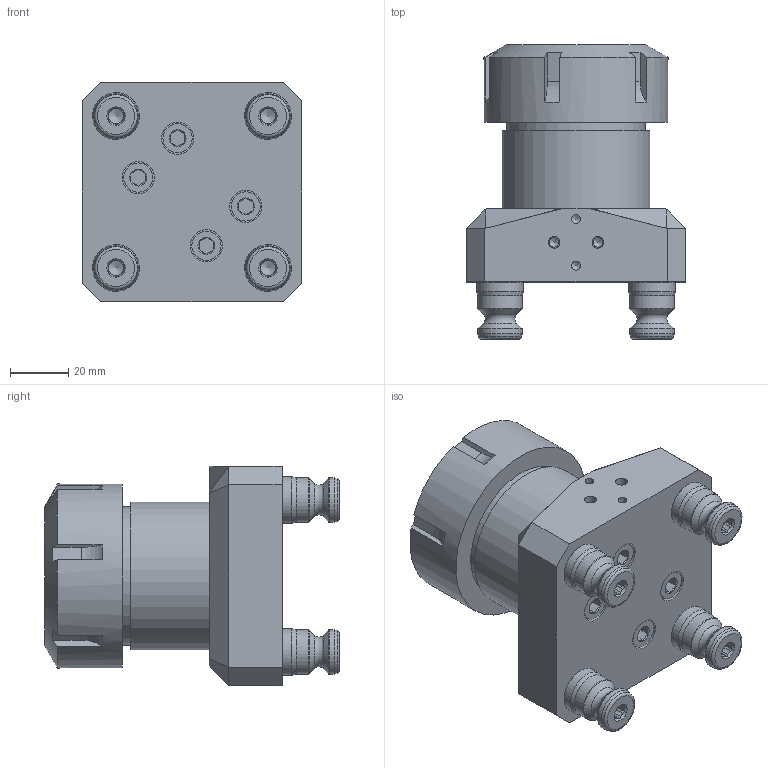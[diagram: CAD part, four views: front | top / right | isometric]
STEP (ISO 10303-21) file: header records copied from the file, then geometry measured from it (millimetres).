
FILE_DESCRIPTION (( 'STEP AP214' ), '1' );
FILE_NAME ('A52-CERX-40_WEBSITE.STEP', '2025-08-13T04:47:57', ( '' ), ( '' ), 'SwSTEP 2.0', 'SolidWorks 2025', '' );
FILE_SCHEMA (( 'AUTOMOTIVE_DESIGN' ));
Length unit declared in the file: millimetre
Products named in the file (10): D_91290A330_BLACK-OXIDE CLASS 12.9 SOCKET HEAD CAP SCREW_WEBSITE_91290A330; D_CERX40-2_WEBSITE; A52-CERX-40_WEBSITE; D_CERX40-3_WEBSITE; D_CERX40-1_WEBSITE_CER40; M8X20.FPSS_WEBSITE_93245A145; D_CERX-40_WEBSITE; PS16F_WEBSITE; PS16F-1_WEBSITE_HARD TURN; A52-CERX-1_WEBSITE
Assembly tree (15 placements, depth 3):
  A52-CERX-40_WEBSITE
    A52-CERX-1_WEBSITE
    D_CERX-40_WEBSITE
      D_CERX40-1_WEBSITE_CER40
      D_CERX40-2_WEBSITE
      D_CERX40-3_WEBSITE
    D_91290A330_BLACK-OXIDE CLASS 12.9 SOCKET HEAD CAP SCREW_WEBSITE_91290A330  x4
    PS16F_WEBSITE  x4
      PS16F-1_WEBSITE_HARD TURN
      M8X20.FPSS_WEBSITE_93245A145
Bounding box: 75 x 100.76 x 75 mm (x, y, z)
Volume: 244208.6 mm3; surface area: 82069.1 mm2
Topology: 16 solids, 16 shells, 547 faces, 1324 edges, 843 vertices
Faces by surface type: plane 283, cylinder 137, cone 99, torus 28
Full cylindrical faces by diameter (mm): 3.023 x2, 3.3 x2, 4 x2, 5.25 x4, 5.41 x4, 6 x4, 6.35 x4, 6.756 x4, 6.8 x8, 8 x8, 10 x4, 11 x4, 11.991 x4, 12.017 x4, 15.202 x8, 15.997 x4, 26 x1, 27.94 x1, 33.1 x1, 40 x1, 40.85 x1, 41.86 x1, 47.46 x1, 48.5 x1, 50 x1, 50.8 x1, 50.838 x1, 52 x1, 63 x1
Entity records: 10547 total; most frequent: CARTESIAN_POINT 2179, DIRECTION 1637, ORIENTED_EDGE 1504, EDGE_CURVE 752, AXIS2_PLACEMENT_3D 663, VERTEX_POINT 531, EDGE_LOOP 465, FACE_OUTER_BOUND 403
